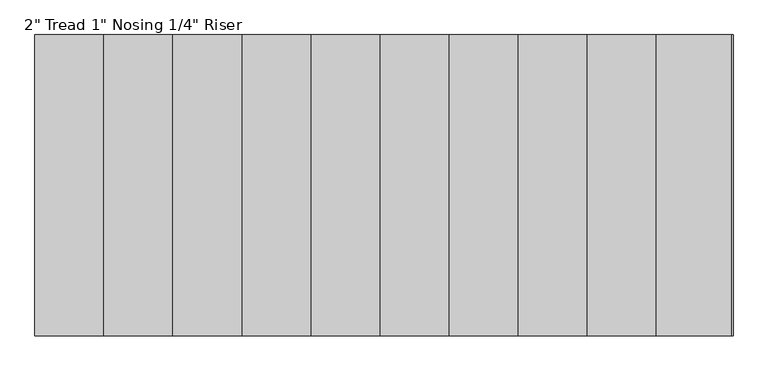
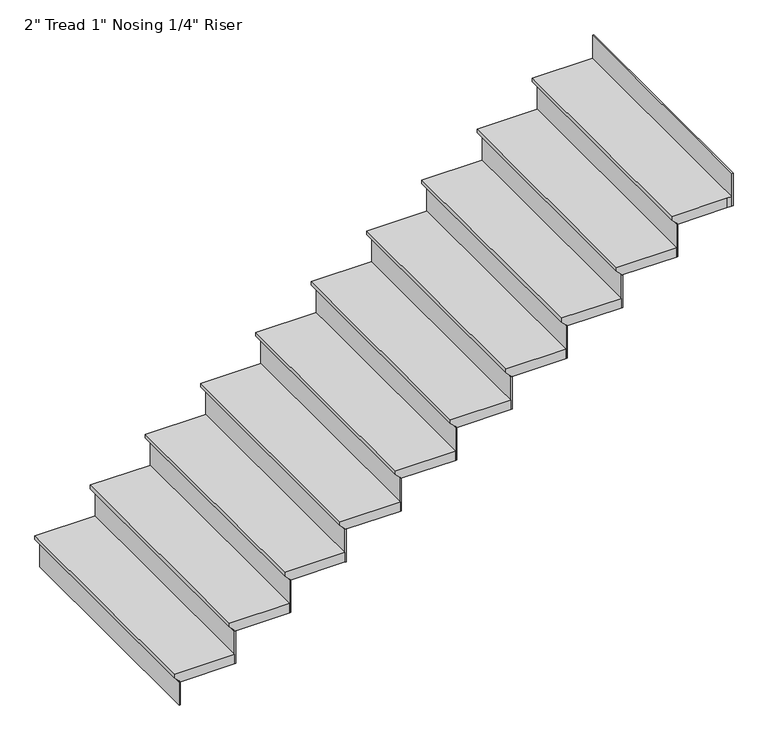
"""IFC4 building model written with IfcOpenShell, lengths in millimetres: stair flight geometry."""

from ifc_helpers import new_model, si_unit, origin, place, context, project, spatial, faceted_brep, source, transform, mapped, element, save


def stair_flight_ee5305ab(model_context):
    return source(origin(), model_context, "Body", "Brep", [
        faceted_brep([(17744.0049721, -5529.9976681, 155.1214286), (17744.0049721, -5529.9976681, 174.1714286), (17744.0049721, -4310.7976681, 174.1714286), (17744.0049721, -4310.7976681, 155.1214286), (17769.4049721, -5529.9976681, 129.7214286), (17769.4049721, -4310.7976681, 129.7214286), (18048.8049721, -5529.9976681, 174.1714286), (18048.8049721, -4310.7976681, 174.1714286), (17769.4049721, -4310.7976681, 123.3714286), (18048.8049721, -4310.7976681, 123.3714286), (18048.8049721, -5529.9976681, 123.3714286), (17769.4049721, -5529.9976681, 123.3714286)], [[[0, 1, 2, 3]], [[4, 0, 3, 5]], [[2, 1, 6, 7]], [[8, 9, 10, 11]], [[2, 7, 9, 8, 5, 3]], [[8, 11, 4, 5]], [[6, 1, 0, 4, 11, 10]], [[7, 6, 10, 9]]]),
        faceted_brep([(17769.4049721, -5529.9976681, 123.3714286), (17769.4049721, -5529.9976681, 0.0), (17775.7549721, -5529.9976681, 0.0), (17775.7549721, -5529.9976681, 123.3714286), (17769.4049721, -4310.7976681, 123.3714286), (17775.7549721, -4310.7976681, 123.3714286), (17775.7549721, -4310.7976681, 0.0), (17769.4049721, -4310.7976681, 0.0)], [[[0, 1, 2, 3]], [[4, 5, 6, 7]], [[1, 0, 4, 7]], [[2, 1, 7, 6]], [[3, 2, 6, 5]], [[0, 3, 5, 4]]]),
        faceted_brep([(18048.8049721, -5529.9976681, 297.5428571), (18048.8049721, -5529.9976681, 123.3714286), (18055.1549721, -5529.9976681, 123.3714286), (18055.1549721, -5529.9976681, 297.5428571), (18048.8049721, -4310.7976681, 297.5428571), (18055.1549721, -4310.7976681, 297.5428571), (18055.1549721, -4310.7976681, 123.3714286), (18048.8049721, -4310.7976681, 123.3714286)], [[[0, 1, 2, 3]], [[4, 5, 6, 7]], [[1, 0, 4, 7]], [[2, 1, 7, 6]], [[3, 2, 6, 5]], [[0, 3, 5, 4]]]),
        faceted_brep([(18023.4049721, -4310.7976681, 348.3428571), (18023.4049721, -5529.9976681, 348.3428571), (18328.2049721, -5529.9976681, 348.3428571), (18328.2049721, -4310.7976681, 348.3428571), (18048.8049721, -4310.7976681, 297.5428571), (18328.2049721, -4310.7976681, 297.5428571), (18328.2049721, -5529.9976681, 297.5428571), (18048.8049721, -5529.9976681, 297.5428571), (18048.8049721, -4310.7976681, 303.8928571), (18023.4049721, -4310.7976681, 329.2928571), (18048.8049721, -5529.9976681, 303.8928571), (18023.4049721, -5529.9976681, 329.2928571)], [[[0, 1, 2, 3]], [[4, 5, 6, 7]], [[0, 3, 5, 4, 8, 9]], [[4, 7, 10, 8]], [[2, 1, 11, 10, 7, 6]], [[3, 2, 6, 5]], [[11, 1, 0, 9]], [[10, 11, 9, 8]]]),
        faceted_brep([(18328.2049721, -5529.9976681, 471.7142857), (18328.2049721, -5529.9976681, 297.5428571), (18334.5549721, -5529.9976681, 297.5428571), (18334.5549721, -5529.9976681, 471.7142857), (18328.2049721, -4310.7976681, 471.7142857), (18334.5549721, -4310.7976681, 471.7142857), (18334.5549721, -4310.7976681, 297.5428571), (18328.2049721, -4310.7976681, 297.5428571)], [[[0, 1, 2, 3]], [[4, 5, 6, 7]], [[1, 0, 4, 7]], [[2, 1, 7, 6]], [[3, 2, 6, 5]], [[0, 3, 5, 4]]]),
        faceted_brep([(18302.8049721, -4310.7976681, 522.5142857), (18302.8049721, -5529.9976681, 522.5142857), (18607.6049721, -5529.9976681, 522.5142857), (18607.6049721, -4310.7976681, 522.5142857), (18328.2049721, -4310.7976681, 471.7142857), (18607.6049721, -4310.7976681, 471.7142857), (18607.6049721, -5529.9976681, 471.7142857), (18328.2049721, -5529.9976681, 471.7142857), (18328.2049721, -4310.7976681, 478.0642857), (18302.8049721, -4310.7976681, 503.4642857), (18328.2049721, -5529.9976681, 478.0642857), (18302.8049721, -5529.9976681, 503.4642857)], [[[0, 1, 2, 3]], [[4, 5, 6, 7]], [[0, 3, 5, 4, 8, 9]], [[4, 7, 10, 8]], [[2, 1, 11, 10, 7, 6]], [[3, 2, 6, 5]], [[11, 1, 0, 9]], [[10, 11, 9, 8]]]),
        faceted_brep([(18607.6049721, -5529.9976681, 645.8857143), (18607.6049721, -5529.9976681, 471.7142857), (18613.9549721, -5529.9976681, 471.7142857), (18613.9549721, -5529.9976681, 645.8857143), (18607.6049721, -4310.7976681, 645.8857143), (18613.9549721, -4310.7976681, 645.8857143), (18613.9549721, -4310.7976681, 471.7142857), (18607.6049721, -4310.7976681, 471.7142857)], [[[0, 1, 2, 3]], [[4, 5, 6, 7]], [[1, 0, 4, 7]], [[2, 1, 7, 6]], [[3, 2, 6, 5]], [[0, 3, 5, 4]]]),
        faceted_brep([(18582.2049721, -4310.7976681, 696.6857143), (18582.2049721, -5529.9976681, 696.6857143), (18887.0049721, -5529.9976681, 696.6857143), (18887.0049721, -4310.7976681, 696.6857143), (18607.6049721, -4310.7976681, 645.8857143), (18887.0049721, -4310.7976681, 645.8857143), (18887.0049721, -5529.9976681, 645.8857143), (18607.6049721, -5529.9976681, 645.8857143), (18607.6049721, -4310.7976681, 652.2357143), (18582.2049721, -4310.7976681, 677.6357143), (18607.6049721, -5529.9976681, 652.2357143), (18582.2049721, -5529.9976681, 677.6357143)], [[[0, 1, 2, 3]], [[4, 5, 6, 7]], [[0, 3, 5, 4, 8, 9]], [[4, 7, 10, 8]], [[2, 1, 11, 10, 7, 6]], [[3, 2, 6, 5]], [[11, 1, 0, 9]], [[10, 11, 9, 8]]]),
        faceted_brep([(18887.0049721, -5529.9976681, 820.0571429), (18887.0049721, -5529.9976681, 645.8857143), (18893.3549721, -5529.9976681, 645.8857143), (18893.3549721, -5529.9976681, 820.0571429), (18887.0049721, -4310.7976681, 820.0571429), (18893.3549721, -4310.7976681, 820.0571429), (18893.3549721, -4310.7976681, 645.8857143), (18887.0049721, -4310.7976681, 645.8857143)], [[[0, 1, 2, 3]], [[4, 5, 6, 7]], [[1, 0, 4, 7]], [[2, 1, 7, 6]], [[3, 2, 6, 5]], [[0, 3, 5, 4]]]),
        faceted_brep([(18861.6049721, -4310.7976681, 870.8571429), (18861.6049721, -5529.9976681, 870.8571429), (19166.4049721, -5529.9976681, 870.8571429), (19166.4049721, -4310.7976681, 870.8571429), (18887.0049721, -4310.7976681, 820.0571429), (19166.4049721, -4310.7976681, 820.0571429), (19166.4049721, -5529.9976681, 820.0571429), (18887.0049721, -5529.9976681, 820.0571429), (18887.0049721, -4310.7976681, 826.4071429), (18861.6049721, -4310.7976681, 851.8071429), (18887.0049721, -5529.9976681, 826.4071429), (18861.6049721, -5529.9976681, 851.8071429)], [[[0, 1, 2, 3]], [[4, 5, 6, 7]], [[0, 3, 5, 4, 8, 9]], [[4, 7, 10, 8]], [[2, 1, 11, 10, 7, 6]], [[3, 2, 6, 5]], [[11, 1, 0, 9]], [[10, 11, 9, 8]]]),
        faceted_brep([(19166.4049721, -5529.9976681, 994.2285714), (19166.4049721, -5529.9976681, 820.0571429), (19172.7549721, -5529.9976681, 820.0571429), (19172.7549721, -5529.9976681, 994.2285714), (19166.4049721, -4310.7976681, 994.2285714), (19172.7549721, -4310.7976681, 994.2285714), (19172.7549721, -4310.7976681, 820.0571429), (19166.4049721, -4310.7976681, 820.0571429)], [[[0, 1, 2, 3]], [[4, 5, 6, 7]], [[1, 0, 4, 7]], [[2, 1, 7, 6]], [[3, 2, 6, 5]], [[0, 3, 5, 4]]]),
        faceted_brep([(19141.0049721, -4310.7976681, 1045.0285714), (19141.0049721, -5529.9976681, 1045.0285714), (19445.8049721, -5529.9976681, 1045.0285714), (19445.8049721, -4310.7976681, 1045.0285714), (19166.4049721, -4310.7976681, 994.2285714), (19445.8049721, -4310.7976681, 994.2285714), (19445.8049721, -5529.9976681, 994.2285714), (19166.4049721, -5529.9976681, 994.2285714), (19166.4049721, -4310.7976681, 1000.5785714), (19141.0049721, -4310.7976681, 1025.9785714), (19166.4049721, -5529.9976681, 1000.5785714), (19141.0049721, -5529.9976681, 1025.9785714)], [[[0, 1, 2, 3]], [[4, 5, 6, 7]], [[0, 3, 5, 4, 8, 9]], [[4, 7, 10, 8]], [[2, 1, 11, 10, 7, 6]], [[3, 2, 6, 5]], [[11, 1, 0, 9]], [[10, 11, 9, 8]]]),
        faceted_brep([(19445.8049721, -5529.9976681, 1168.4), (19445.8049721, -5529.9976681, 994.2285714), (19452.1549721, -5529.9976681, 994.2285714), (19452.1549721, -5529.9976681, 1168.4), (19445.8049721, -4310.7976681, 1168.4), (19452.1549721, -4310.7976681, 1168.4), (19452.1549721, -4310.7976681, 994.2285714), (19445.8049721, -4310.7976681, 994.2285714)], [[[0, 1, 2, 3]], [[4, 5, 6, 7]], [[1, 0, 4, 7]], [[2, 1, 7, 6]], [[3, 2, 6, 5]], [[0, 3, 5, 4]]]),
        faceted_brep([(19420.4049721, -4310.7976681, 1219.2), (19420.4049721, -5529.9976681, 1219.2), (19725.2049721, -5529.9976681, 1219.2), (19725.2049721, -4310.7976681, 1219.2), (19445.8049721, -4310.7976681, 1168.4), (19725.2049721, -4310.7976681, 1168.4), (19725.2049721, -5529.9976681, 1168.4), (19445.8049721, -5529.9976681, 1168.4), (19445.8049721, -4310.7976681, 1174.75), (19420.4049721, -4310.7976681, 1200.15), (19445.8049721, -5529.9976681, 1174.75), (19420.4049721, -5529.9976681, 1200.15)], [[[0, 1, 2, 3]], [[4, 5, 6, 7]], [[0, 3, 5, 4, 8, 9]], [[4, 7, 10, 8]], [[2, 1, 11, 10, 7, 6]], [[3, 2, 6, 5]], [[11, 1, 0, 9]], [[10, 11, 9, 8]]]),
        faceted_brep([(19725.2049721, -5529.9976681, 1342.5714286), (19725.2049721, -5529.9976681, 1168.4), (19731.5549721, -5529.9976681, 1168.4), (19731.5549721, -5529.9976681, 1342.5714286), (19725.2049721, -4310.7976681, 1342.5714286), (19731.5549721, -4310.7976681, 1342.5714286), (19731.5549721, -4310.7976681, 1168.4), (19725.2049721, -4310.7976681, 1168.4)], [[[0, 1, 2, 3]], [[4, 5, 6, 7]], [[1, 0, 4, 7]], [[2, 1, 7, 6]], [[3, 2, 6, 5]], [[0, 3, 5, 4]]]),
        faceted_brep([(19699.8049721, -4310.7976681, 1393.3714286), (19699.8049721, -5529.9976681, 1393.3714286), (20004.6049721, -5529.9976681, 1393.3714286), (20004.6049721, -4310.7976681, 1393.3714286), (19725.2049721, -4310.7976681, 1342.5714286), (20004.6049721, -4310.7976681, 1342.5714286), (20004.6049721, -5529.9976681, 1342.5714286), (19725.2049721, -5529.9976681, 1342.5714286), (19725.2049721, -4310.7976681, 1348.9214286), (19699.8049721, -4310.7976681, 1374.3214286), (19725.2049721, -5529.9976681, 1348.9214286), (19699.8049721, -5529.9976681, 1374.3214286)], [[[0, 1, 2, 3]], [[4, 5, 6, 7]], [[0, 3, 5, 4, 8, 9]], [[4, 7, 10, 8]], [[2, 1, 11, 10, 7, 6]], [[3, 2, 6, 5]], [[11, 1, 0, 9]], [[10, 11, 9, 8]]]),
        faceted_brep([(20004.6049721, -5529.9976681, 1516.7428571), (20004.6049721, -5529.9976681, 1342.5714286), (20010.9549721, -5529.9976681, 1342.5714286), (20010.9549721, -5529.9976681, 1516.7428571), (20004.6049721, -4310.7976681, 1516.7428571), (20010.9549721, -4310.7976681, 1516.7428571), (20010.9549721, -4310.7976681, 1342.5714286), (20004.6049721, -4310.7976681, 1342.5714286)], [[[0, 1, 2, 3]], [[4, 5, 6, 7]], [[1, 0, 4, 7]], [[2, 1, 7, 6]], [[3, 2, 6, 5]], [[0, 3, 5, 4]]]),
        faceted_brep([(19979.2049721, -4310.7976681, 1567.5428571), (19979.2049721, -5529.9976681, 1567.5428571), (20284.0049721, -5529.9976681, 1567.5428571), (20284.0049721, -4310.7976681, 1567.5428571), (20004.6049721, -4310.7976681, 1516.7428571), (20284.0049721, -4310.7976681, 1516.7428571), (20284.0049721, -5529.9976681, 1516.7428571), (20004.6049721, -5529.9976681, 1516.7428571), (20004.6049721, -4310.7976681, 1523.0928571), (19979.2049721, -4310.7976681, 1548.4928571), (20004.6049721, -5529.9976681, 1523.0928571), (19979.2049721, -5529.9976681, 1548.4928571)], [[[0, 1, 2, 3]], [[4, 5, 6, 7]], [[0, 3, 5, 4, 8, 9]], [[4, 7, 10, 8]], [[2, 1, 11, 10, 7, 6]], [[3, 2, 6, 5]], [[11, 1, 0, 9]], [[10, 11, 9, 8]]]),
        faceted_brep([(20563.4049721, -5529.9976681, 1865.0857143), (20563.4049721, -5529.9976681, 1690.9142857), (20569.7549721, -5529.9976681, 1690.9142857), (20569.7549721, -5529.9976681, 1865.0857143), (20563.4049721, -4310.7976681, 1865.0857143), (20569.7549721, -4310.7976681, 1865.0857143), (20569.7549721, -4310.7976681, 1690.9142857), (20563.4049721, -4310.7976681, 1690.9142857)], [[[0, 1, 2, 3]], [[4, 5, 6, 7]], [[1, 0, 4, 7]], [[2, 1, 7, 6]], [[3, 2, 6, 5]], [[0, 3, 5, 4]]]),
        faceted_brep([(20284.0049721, -5529.9976681, 1690.9142857), (20284.0049721, -5529.9976681, 1516.7428571), (20290.3549721, -5529.9976681, 1516.7428571), (20290.3549721, -5529.9976681, 1690.9142857), (20284.0049721, -4310.7976681, 1690.9142857), (20290.3549721, -4310.7976681, 1690.9142857), (20290.3549721, -4310.7976681, 1516.7428571), (20284.0049721, -4310.7976681, 1516.7428571)], [[[0, 1, 2, 3]], [[4, 5, 6, 7]], [[1, 0, 4, 7]], [[2, 1, 7, 6]], [[3, 2, 6, 5]], [[0, 3, 5, 4]]]),
        faceted_brep([(20258.6049721, -4310.7976681, 1741.7142857), (20258.6049721, -5529.9976681, 1741.7142857), (20538.0049721, -5529.9976681, 1741.7142857), (20563.4049721, -5529.9976681, 1741.7142857), (20563.4049721, -4310.7976681, 1741.7142857), (20284.0049721, -4310.7976681, 1690.9142857), (20563.4049721, -4310.7976681, 1690.9142857), (20563.4049721, -5529.9976681, 1690.9142857), (20538.0049721, -5529.9976681, 1690.9142857), (20284.0049721, -5529.9976681, 1690.9142857), (20284.0049721, -4310.7976681, 1697.2642857), (20258.6049721, -4310.7976681, 1722.6642857), (20284.0049721, -5529.9976681, 1697.2642857), (20258.6049721, -5529.9976681, 1722.6642857)], [[[0, 1, 2, 3, 4]], [[5, 6, 7, 8, 9]], [[0, 4, 6, 5, 10, 11]], [[5, 9, 12, 10]], [[2, 1, 13, 12, 9, 8]], [[3, 2, 8, 7]], [[4, 3, 7, 6]], [[13, 1, 0, 11]], [[12, 13, 11, 10]]]),
    ])


if __name__ == "__main__":
    model = new_model("IFC4")
    model_context = context("Model", 3, world=origin())
    ifc_project = project(units=[si_unit("LENGTHUNIT", "METRE", prefix="MILLI")], contexts=[model_context])
    site = spatial("IfcSite", under=ifc_project)
    building = spatial("IfcBuilding", under=site)
    placement = place(None, origin())
    stair_flight_shape = stair_flight_ee5305ab(model_context)
    element("IfcStairFlight", 1, ObjectType="2\" Tread 1\" Nosing 1/4\" Riser", at=placement, inside=building, context=model_context, shape_type="MappedRepresentation", body=[
        mapped(stair_flight_shape, transform((0.0, 0.0, 0.0), x_axis=(1.0, 0.0, 0.0), y_axis=(0.0, 1.0, 0.0), z_axis=(0.0, 0.0, 1.0))),
    ])
    save(model, "model.ifc")
